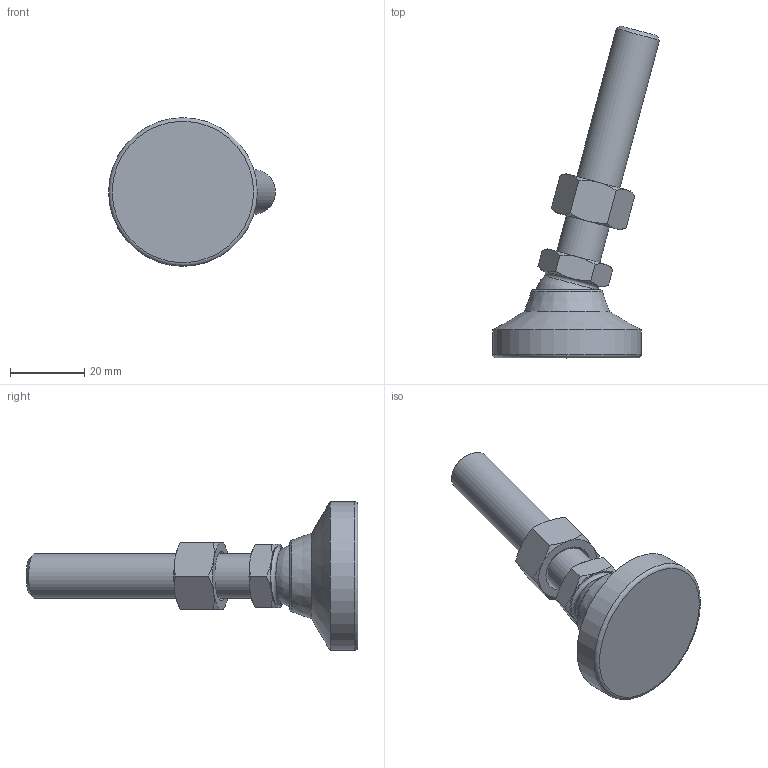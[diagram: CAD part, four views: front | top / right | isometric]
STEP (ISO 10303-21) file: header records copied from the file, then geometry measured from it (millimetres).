
FILE_DESCRIPTION( ( 'STEP AP214' ), ' ' );
FILE_NAME( 'O:/ganter_2015/teil_2/2_5/gn343_2/gn343_2_kr/Levelling foot with threaded stud GN 343.2-40-M12-63-KR-(-15).stp', '2015-10-26T09:13:13', ( '' ), ( '' ), ' ', 'PARTsolutions', ' ' );
FILE_SCHEMA( ( 'AUTOMOTIVE_DESIGN { 1 0 10303 214 1 1 1 1 }' ) );
Length unit declared in the file: millimetre
Products named in the file (4): Levelling foot with threaded stud GN 343.2-40-M12-63-KR-(-15); _Levelling foot with threaded stud GN 343.2-40-M12-63-KR-(-15)_foot; _Levelling foot with threaded stud GN 343.2-40-M12-63-KR-(-15)_screw; _Levelling foot with threaded stud GN 343.2-40-M12-63-KR-(-15)_nut
Assembly tree (3 placements, depth 2):
  Levelling foot with threaded stud GN 343.2-40-M12-63-KR-(-15)
    _Levelling foot with threaded stud GN 343.2-40-M12-63-KR-(-15)_foot
    _Levelling foot with threaded stud GN 343.2-40-M12-63-KR-(-15)_screw
    _Levelling foot with threaded stud GN 343.2-40-M12-63-KR-(-15)_nut
Bounding box: 44.89 x 89.25 x 40 mm (x, y, z)
Volume: 26692.2 mm3; surface area: 9335.8 mm2
Topology: 3 solids, 3 shells, 56 faces, 117 edges, 68 vertices
Faces by surface type: cone 29, plane 19, torus 3, cylinder 3, sphere 2
Full cylindrical faces by diameter (mm): 10.106 x1, 12 x1, 40 x1
Entity records: 2066 total; most frequent: CARTESIAN_POINT 498, DIRECTION 212, ORIENTED_EDGE 200, AXIS2_PLACEMENT_3D 100, EDGE_CURVE 100, EDGE_LOOP 72, VERTEX_POINT 66, FACE_OUTER_BOUND 62
